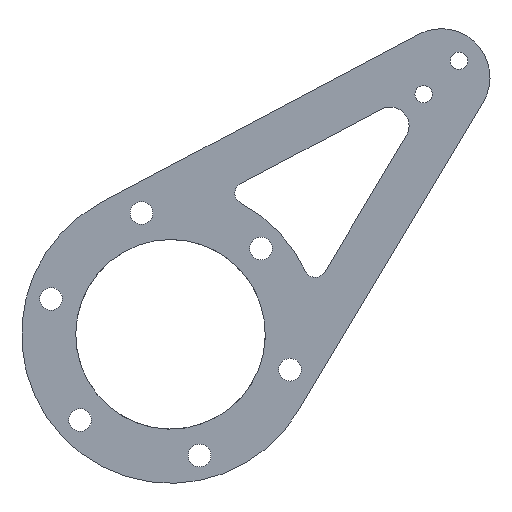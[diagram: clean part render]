
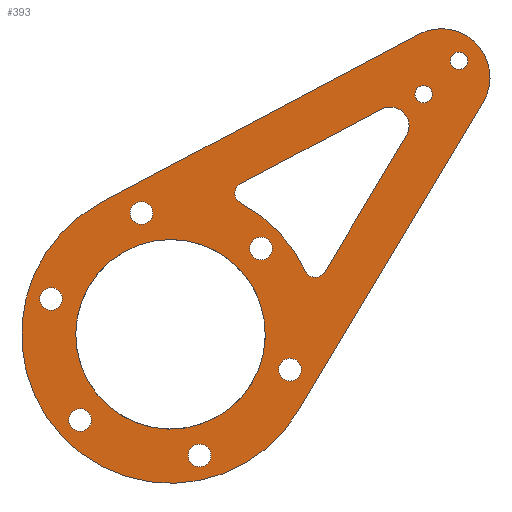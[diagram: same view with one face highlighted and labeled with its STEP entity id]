
A CAD part, left-side view. The second image highlights one B-rep face of the part: STEP entity #393.
In plain terms, the highlighted planar face has unit normal (-1, 0, 0).
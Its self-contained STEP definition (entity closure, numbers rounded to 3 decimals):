
#14=PLANE('',#447);
#22=LINE('',#603,#40);
#25=LINE('',#647,#43);
#26=LINE('',#657,#44);
#27=LINE('',#665,#45);
#40=VECTOR('',#480,1000.);
#43=VECTOR('',#533,1000.);
#44=VECTOR('',#544,1000.);
#45=VECTOR('',#551,1000.);
#86=ORIENTED_EDGE('',*,*,#178,.F.);
#87=ORIENTED_EDGE('',*,*,#179,.F.);
#88=ORIENTED_EDGE('',*,*,#180,.T.);
#89=ORIENTED_EDGE('',*,*,#181,.F.);
#90=ORIENTED_EDGE('',*,*,#182,.T.);
#91=ORIENTED_EDGE('',*,*,#183,.F.);
#92=ORIENTED_EDGE('',*,*,#184,.F.);
#93=ORIENTED_EDGE('',*,*,#152,.T.);
#94=ORIENTED_EDGE('',*,*,#156,.T.);
#95=ORIENTED_EDGE('',*,*,#159,.T.);
#96=ORIENTED_EDGE('',*,*,#175,.T.);
#97=ORIENTED_EDGE('',*,*,#172,.F.);
#98=ORIENTED_EDGE('',*,*,#170,.F.);
#99=ORIENTED_EDGE('',*,*,#168,.F.);
#100=ORIENTED_EDGE('',*,*,#166,.F.);
#101=ORIENTED_EDGE('',*,*,#164,.F.);
#102=ORIENTED_EDGE('',*,*,#162,.F.);
#103=ORIENTED_EDGE('',*,*,#160,.F.);
#104=ORIENTED_EDGE('',*,*,#176,.F.);
#152=EDGE_CURVE('',#201,#200,#237,.T.);
#156=EDGE_CURVE('',#200,#203,#22,.T.);
#159=EDGE_CURVE('',#203,#205,#239,.T.);
#160=EDGE_CURVE('',#206,#206,#240,.T.);
#162=EDGE_CURVE('',#208,#208,#242,.T.);
#164=EDGE_CURVE('',#210,#210,#244,.T.);
#166=EDGE_CURVE('',#212,#212,#246,.T.);
#168=EDGE_CURVE('',#214,#214,#248,.T.);
#170=EDGE_CURVE('',#216,#216,#250,.T.);
#172=EDGE_CURVE('',#218,#218,#252,.T.);
#175=EDGE_CURVE('',#205,#201,#25,.T.);
#176=EDGE_CURVE('',#220,#220,#254,.T.);
#178=EDGE_CURVE('',#222,#223,#256,.T.);
#179=EDGE_CURVE('',#224,#222,#26,.T.);
#180=EDGE_CURVE('',#224,#225,#257,.F.);
#181=EDGE_CURVE('',#226,#225,#258,.T.);
#182=EDGE_CURVE('',#226,#227,#259,.F.);
#183=EDGE_CURVE('',#223,#227,#27,.T.);
#184=EDGE_CURVE('',#228,#228,#260,.T.);
#200=VERTEX_POINT('',#594);
#201=VERTEX_POINT('',#596);
#203=VERTEX_POINT('',#602);
#205=VERTEX_POINT('',#608);
#206=VERTEX_POINT('',#612);
#208=VERTEX_POINT('',#617);
#210=VERTEX_POINT('',#622);
#212=VERTEX_POINT('',#627);
#214=VERTEX_POINT('',#632);
#216=VERTEX_POINT('',#637);
#218=VERTEX_POINT('',#642);
#220=VERTEX_POINT('',#650);
#222=VERTEX_POINT('',#655);
#223=VERTEX_POINT('',#656);
#224=VERTEX_POINT('',#658);
#225=VERTEX_POINT('',#660);
#226=VERTEX_POINT('',#662);
#227=VERTEX_POINT('',#664);
#228=VERTEX_POINT('',#667);
#237=CIRCLE('',#417,9.);
#239=CIRCLE('',#421,27.5);
#240=CIRCLE('',#423,2.1);
#242=CIRCLE('',#426,2.1);
#244=CIRCLE('',#429,1.6);
#246=CIRCLE('',#432,1.6);
#248=CIRCLE('',#435,2.1);
#250=CIRCLE('',#438,2.1);
#252=CIRCLE('',#441,2.1);
#254=CIRCLE('',#445,2.1);
#256=CIRCLE('',#448,3.489);
#257=CIRCLE('',#449,2.);
#258=CIRCLE('',#450,27.5);
#259=CIRCLE('',#451,2.);
#260=CIRCLE('',#452,17.5);
#286=EDGE_LOOP('',(#86,#87,#88,#89,#90,#91));
#287=EDGE_LOOP('',(#92));
#288=EDGE_LOOP('',(#93,#94,#95,#96));
#289=EDGE_LOOP('',(#97));
#290=EDGE_LOOP('',(#98));
#291=EDGE_LOOP('',(#99));
#292=EDGE_LOOP('',(#100));
#293=EDGE_LOOP('',(#101));
#294=EDGE_LOOP('',(#102));
#295=EDGE_LOOP('',(#103));
#296=EDGE_LOOP('',(#104));
#336=FACE_BOUND('',#286,.T.);
#337=FACE_BOUND('',#287,.T.);
#338=FACE_BOUND('',#288,.T.);
#339=FACE_BOUND('',#289,.T.);
#340=FACE_BOUND('',#290,.T.);
#341=FACE_BOUND('',#291,.T.);
#342=FACE_BOUND('',#292,.T.);
#343=FACE_BOUND('',#293,.T.);
#344=FACE_BOUND('',#294,.T.);
#345=FACE_BOUND('',#295,.T.);
#346=FACE_BOUND('',#296,.T.);
#393=ADVANCED_FACE('',(#336,#337,#338,#339,#340,#341,#342,#343,#344,#345,
#346),#14,.T.);
#417=AXIS2_PLACEMENT_3D('',#595,#473,#474);
#421=AXIS2_PLACEMENT_3D('',#609,#486,#487);
#423=AXIS2_PLACEMENT_3D('',#611,#490,#491);
#426=AXIS2_PLACEMENT_3D('',#616,#496,#497);
#429=AXIS2_PLACEMENT_3D('',#621,#502,#503);
#432=AXIS2_PLACEMENT_3D('',#626,#508,#509);
#435=AXIS2_PLACEMENT_3D('',#631,#514,#515);
#438=AXIS2_PLACEMENT_3D('',#636,#520,#521);
#441=AXIS2_PLACEMENT_3D('',#641,#526,#527);
#445=AXIS2_PLACEMENT_3D('',#649,#536,#537);
#447=AXIS2_PLACEMENT_3D('',#653,#540,#541);
#448=AXIS2_PLACEMENT_3D('',#654,#542,#543);
#449=AXIS2_PLACEMENT_3D('',#659,#545,#546);
#450=AXIS2_PLACEMENT_3D('',#661,#547,#548);
#451=AXIS2_PLACEMENT_3D('',#663,#549,#550);
#452=AXIS2_PLACEMENT_3D('',#666,#552,#553);
#473=DIRECTION('',(-1.,0.,0.));
#474=DIRECTION('',(0.,-1.,0.));
#480=DIRECTION('',(0.,0.884,-0.468));
#486=DIRECTION('',(-1.,0.,0.));
#487=DIRECTION('',(0.,-1.,0.));
#490=DIRECTION('',(-1.,0.,0.));
#491=DIRECTION('',(0.,0.,1.));
#496=DIRECTION('',(-1.,0.,0.));
#497=DIRECTION('',(0.,0.,1.));
#502=DIRECTION('',(-1.,0.,0.));
#503=DIRECTION('',(0.,0.,1.));
#508=DIRECTION('',(-1.,0.,0.));
#509=DIRECTION('',(0.,0.,1.));
#514=DIRECTION('',(-1.,0.,0.));
#515=DIRECTION('',(0.,0.,1.));
#520=DIRECTION('',(-1.,0.,0.));
#521=DIRECTION('',(0.,0.,1.));
#526=DIRECTION('',(-1.,0.,0.));
#527=DIRECTION('',(0.,0.,1.));
#533=DIRECTION('',(0.,-0.514,0.858));
#536=DIRECTION('',(-1.,0.,0.));
#537=DIRECTION('',(0.,0.,1.));
#540=DIRECTION('',(-1.,0.,0.));
#541=DIRECTION('',(0.,0.,1.));
#542=DIRECTION('',(-1.,0.,0.));
#543=DIRECTION('',(0.,-0.884,0.468));
#544=DIRECTION('',(0.,-0.514,0.858));
#545=DIRECTION('',(-1.,0.,0.));
#546=DIRECTION('',(0.,0.,1.));
#547=DIRECTION('',(1.,0.,0.));
#548=DIRECTION('',(0.,-0.884,0.468));
#549=DIRECTION('',(-1.,0.,0.));
#550=DIRECTION('',(0.,0.,1.));
#551=DIRECTION('',(0.,0.884,-0.468));
#552=DIRECTION('',(-1.,0.,0.));
#553=DIRECTION('',(0.,-0.884,0.468));
#594=CARTESIAN_POINT('',(15.426,-2.308,78.101));
#595=CARTESIAN_POINT('',(15.426,-6.521,70.148));
#596=CARTESIAN_POINT('',(15.426,-14.242,65.523));
#602=CARTESIAN_POINT('',(15.426,56.317,47.042));
#603=CARTESIAN_POINT('',(15.426,-2.308,78.101));
#608=CARTESIAN_POINT('',(15.426,19.853,8.61));
#609=CARTESIAN_POINT('',(15.426,43.443,22.742));
#611=CARTESIAN_POINT('',(15.426,48.811,45.107));
#612=CARTESIAN_POINT('',(15.426,48.811,47.207));
#616=CARTESIAN_POINT('',(15.426,26.758,38.573));
#617=CARTESIAN_POINT('',(15.426,26.758,40.673));
#621=CARTESIAN_POINT('',(15.426,-3.256,67.051));
#622=CARTESIAN_POINT('',(15.426,-3.256,68.651));
#626=CARTESIAN_POINT('',(15.426,-9.785,73.245));
#627=CARTESIAN_POINT('',(15.426,-9.785,74.845));
#631=CARTESIAN_POINT('',(15.426,21.391,16.208));
#632=CARTESIAN_POINT('',(15.426,21.391,18.308));
#636=CARTESIAN_POINT('',(15.426,38.076,0.377));
#637=CARTESIAN_POINT('',(15.426,38.076,2.477));
#641=CARTESIAN_POINT('',(15.426,60.128,6.911));
#642=CARTESIAN_POINT('',(15.426,60.128,9.011));
#647=CARTESIAN_POINT('',(15.426,19.853,8.61));
#649=CARTESIAN_POINT('',(15.426,65.496,29.276));
#650=CARTESIAN_POINT('',(15.426,65.496,31.376));
#653=CARTESIAN_POINT('',(15.426,-6.521,70.148));
#654=CARTESIAN_POINT('',(15.426,2.902,61.208));
#655=CARTESIAN_POINT('',(15.426,-0.091,59.415));
#656=CARTESIAN_POINT('',(15.426,4.535,64.291));
#657=CARTESIAN_POINT('',(15.426,17.117,30.689));
#658=CARTESIAN_POINT('',(15.426,15.006,34.213));
#659=CARTESIAN_POINT('',(15.426,16.722,35.24));
#660=CARTESIAN_POINT('',(15.426,18.534,34.393));
#661=CARTESIAN_POINT('',(15.426,43.443,22.742));
#662=CARTESIAN_POINT('',(15.426,30.5,47.006));
#663=CARTESIAN_POINT('',(15.426,29.559,48.77));
#664=CARTESIAN_POINT('',(15.426,30.495,50.538));
#665=CARTESIAN_POINT('',(15.426,4.535,64.291));
#666=CARTESIAN_POINT('',(15.426,43.443,22.742));
#667=CARTESIAN_POINT('',(15.426,27.98,30.934));
